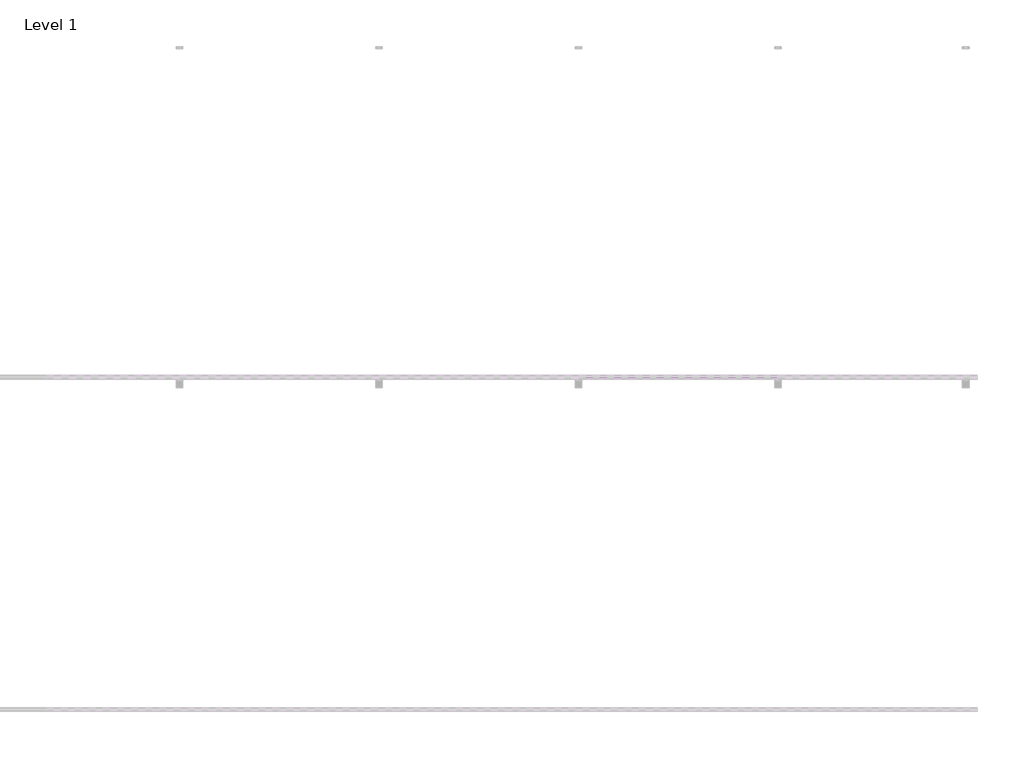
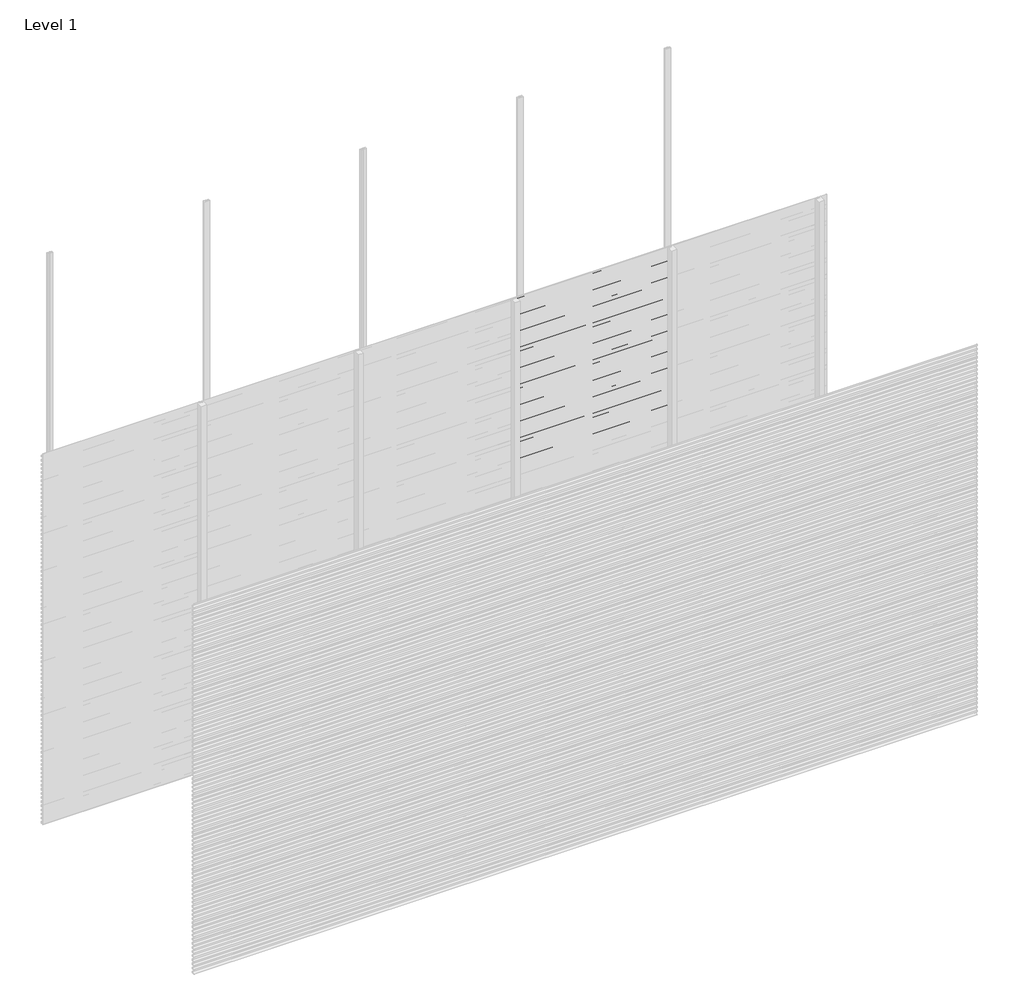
# One storey, part 38 of 77: 72 proxies.
"""IFC4 building model written with IfcOpenShell, lengths in millimetres."""

from ifc_helpers import new_model, si_unit, frame, origin, place, context, project, spatial, polyline, outline, extrude, element, save

model = new_model("IFC4")

# Units and contexts
model_context = context("Model", 3, world=origin())
ifc_project = project(units=[si_unit("LENGTHUNIT", "METRE", prefix="MILLI")], contexts=[model_context])

# Site, building, storey
site = spatial("IfcSite", under=ifc_project)
building = spatial("IfcBuilding", under=site)
storey = spatial("IfcBuildingStorey", under=building, Name="Level 1", Elevation=0.0)

# Proxies
placement = place(None, origin())
element("IfcBuildingElementProxy", 1, Name="Wall Sweeps", at=placement, inside=storey, context=model_context, shape_type="SweptSolid", body=[
    extrude(outline(polyline([(-29978.6, 1007.8359887), (-29998.0, 1019.0366691), (-29998.0, 1032.3), (-29997.0, 1032.3), (-29997.0, 1019.6191057), (-29977.6, 1008.4185105), (-29977.6, 994.8185105), (-29978.6, 996.3953129), (-29978.6, 1002.2032062), (-29995.9773817, 994.1), (-29996.4, 995.0063078), (-29978.6, 1003.3065841), (-29978.6, 1007.8359887)])), frame((2400.0, 0.0, 0.0), z_axis=(1.0, 0.0, 0.0), x_axis=(0.0, 1.0, 0.0)), (0.0, 0.0, 1.0), 1200.0),
])
element("IfcBuildingElementProxy", 2, Name="Wall Sweeps", at=placement, inside=storey, context=model_context, shape_type="SweptSolid", body=[
    extrude(outline(polyline([(-29978.6, 974.5359887), (-29998.0, 985.7366691), (-29998.0, 999.0), (-29997.0, 999.0), (-29997.0, 986.3191057), (-29977.6, 975.1185105), (-29977.6, 961.5185105), (-29978.6, 963.0953129), (-29978.6, 968.9032062), (-29995.9773817, 960.8), (-29996.4, 961.7063078), (-29978.6, 970.0065841), (-29978.6, 974.5359887)])), frame((2400.0, 0.0, 0.0), z_axis=(1.0, 0.0, 0.0), x_axis=(0.0, 1.0, 0.0)), (0.0, 0.0, 1.0), 1200.0),
])
element("IfcBuildingElementProxy", 3, Name="Wall Sweeps", at=placement, inside=storey, context=model_context, shape_type="SweptSolid", body=[
    extrude(outline(polyline([(-29978.6, 941.2359887), (-29998.0, 952.4366691), (-29998.0, 965.7), (-29997.0, 965.7), (-29997.0, 953.0191057), (-29977.6, 941.8185105), (-29977.6, 928.2185105), (-29978.6, 929.7953129), (-29978.6, 935.6032062), (-29995.9773817, 927.5), (-29996.4, 928.4063078), (-29978.6, 936.7065841), (-29978.6, 941.2359887)])), frame((2400.0, 0.0, 0.0), z_axis=(1.0, 0.0, 0.0), x_axis=(0.0, 1.0, 0.0)), (0.0, 0.0, 1.0), 1200.0),
])
element("IfcBuildingElementProxy", 4, Name="Wall Sweeps", at=placement, inside=storey, context=model_context, shape_type="SweptSolid", body=[
    extrude(outline(polyline([(-29978.6, 907.9359887), (-29998.0, 919.1366691), (-29998.0, 932.4), (-29997.0, 932.4), (-29997.0, 919.7191057), (-29977.6, 908.5185105), (-29977.6, 894.9185105), (-29978.6, 896.4953129), (-29978.6, 902.3032062), (-29995.9773817, 894.2), (-29996.4, 895.1063078), (-29978.6, 903.4065841), (-29978.6, 907.9359887)])), frame((2400.0, 0.0, 0.0), z_axis=(1.0, 0.0, 0.0), x_axis=(0.0, 1.0, 0.0)), (0.0, 0.0, 1.0), 1200.0),
])
element("IfcBuildingElementProxy", 5, Name="Wall Sweeps", at=placement, inside=storey, context=model_context, shape_type="SweptSolid", body=[
    extrude(outline(polyline([(-29978.6, 874.6359887), (-29998.0, 885.8366691), (-29998.0, 899.1), (-29997.0, 899.1), (-29997.0, 886.4191057), (-29977.6, 875.2185105), (-29977.6, 861.6185105), (-29978.6, 863.1953129), (-29978.6, 869.0032062), (-29995.9773817, 860.9), (-29996.4, 861.8063078), (-29978.6, 870.1065841), (-29978.6, 874.6359887)])), frame((2400.0, 0.0, 0.0), z_axis=(1.0, 0.0, 0.0), x_axis=(0.0, 1.0, 0.0)), (0.0, 0.0, 1.0), 1200.0),
])
element("IfcBuildingElementProxy", 6, Name="Wall Sweeps", at=placement, inside=storey, context=model_context, shape_type="SweptSolid", body=[
    extrude(outline(polyline([(-29978.6, 841.3359887), (-29998.0, 852.5366691), (-29998.0, 865.8), (-29997.0, 865.8), (-29997.0, 853.1191057), (-29977.6, 841.9185105), (-29977.6, 828.3185105), (-29978.6, 829.8953129), (-29978.6, 835.7032062), (-29995.9773817, 827.6), (-29996.4, 828.5063078), (-29978.6, 836.8065841), (-29978.6, 841.3359887)])), frame((2400.0, 0.0, 0.0), z_axis=(1.0, 0.0, 0.0), x_axis=(0.0, 1.0, 0.0)), (0.0, 0.0, 1.0), 1200.0),
])
element("IfcBuildingElementProxy", 7, Name="Wall Sweeps", at=placement, inside=storey, context=model_context, shape_type="SweptSolid", body=[
    extrude(outline(polyline([(-29978.6, 808.0359887), (-29998.0, 819.2366691), (-29998.0, 832.5), (-29997.0, 832.5), (-29997.0, 819.8191057), (-29977.6, 808.6185105), (-29977.6, 795.0185105), (-29978.6, 796.5953129), (-29978.6, 802.4032062), (-29995.9773817, 794.3), (-29996.4, 795.2063078), (-29978.6, 803.5065841), (-29978.6, 808.0359887)])), frame((2400.0, 0.0, 0.0), z_axis=(1.0, 0.0, 0.0), x_axis=(0.0, 1.0, 0.0)), (0.0, 0.0, 1.0), 1200.0),
])
element("IfcBuildingElementProxy", 8, Name="Wall Sweeps", at=placement, inside=storey, context=model_context, shape_type="SweptSolid", body=[
    extrude(outline(polyline([(-29978.6, 774.7359887), (-29998.0, 785.9366691), (-29998.0, 799.2), (-29997.0, 799.2), (-29997.0, 786.5191057), (-29977.6, 775.3185105), (-29977.6, 761.7185105), (-29978.6, 763.2953129), (-29978.6, 769.1032062), (-29995.9773817, 761.0), (-29996.4, 761.9063078), (-29978.6, 770.2065841), (-29978.6, 774.7359887)])), frame((2400.0, 0.0, 0.0), z_axis=(1.0, 0.0, 0.0), x_axis=(0.0, 1.0, 0.0)), (0.0, 0.0, 1.0), 1200.0),
])
element("IfcBuildingElementProxy", 9, Name="Wall Sweeps", at=placement, inside=storey, context=model_context, shape_type="SweptSolid", body=[
    extrude(outline(polyline([(-29978.6, 741.4359887), (-29998.0, 752.6366691), (-29998.0, 765.9), (-29997.0, 765.9), (-29997.0, 753.2191057), (-29977.6, 742.0185105), (-29977.6, 728.4185105), (-29978.6, 729.9953129), (-29978.6, 735.8032062), (-29995.9773817, 727.7), (-29996.4, 728.6063078), (-29978.6, 736.9065841), (-29978.6, 741.4359887)])), frame((2400.0, 0.0, 0.0), z_axis=(1.0, 0.0, 0.0), x_axis=(0.0, 1.0, 0.0)), (0.0, 0.0, 1.0), 1200.0),
])
element("IfcBuildingElementProxy", 10, Name="Wall Sweeps", at=placement, inside=storey, context=model_context, shape_type="SweptSolid", body=[
    extrude(outline(polyline([(-29978.6, 708.1359887), (-29998.0, 719.3366691), (-29998.0, 732.6), (-29997.0, 732.6), (-29997.0, 719.9191057), (-29977.6, 708.7185105), (-29977.6, 695.1185105), (-29978.6, 696.6953129), (-29978.6, 702.5032062), (-29995.9773817, 694.4), (-29996.4, 695.3063078), (-29978.6, 703.6065841), (-29978.6, 708.1359887)])), frame((2400.0, 0.0, 0.0), z_axis=(1.0, 0.0, 0.0), x_axis=(0.0, 1.0, 0.0)), (0.0, 0.0, 1.0), 1200.0),
])
element("IfcBuildingElementProxy", 11, Name="Wall Sweeps", at=placement, inside=storey, context=model_context, shape_type="SweptSolid", body=[
    extrude(outline(polyline([(-29978.6, 674.8359887), (-29998.0, 686.0366691), (-29998.0, 699.3), (-29997.0, 699.3), (-29997.0, 686.6191057), (-29977.6, 675.4185105), (-29977.6, 661.8185105), (-29978.6, 663.3953129), (-29978.6, 669.2032062), (-29995.9773817, 661.1), (-29996.4, 662.0063078), (-29978.6, 670.3065841), (-29978.6, 674.8359887)])), frame((2400.0, 0.0, 0.0), z_axis=(1.0, 0.0, 0.0), x_axis=(0.0, 1.0, 0.0)), (0.0, 0.0, 1.0), 1200.0),
])
element("IfcBuildingElementProxy", 12, Name="Wall Sweeps", at=placement, inside=storey, context=model_context, shape_type="SweptSolid", body=[
    extrude(outline(polyline([(-29978.6, 641.5359887), (-29998.0, 652.7366691), (-29998.0, 666.0), (-29997.0, 666.0), (-29997.0, 653.3191057), (-29977.6, 642.1185105), (-29977.6, 628.5185105), (-29978.6, 630.0953129), (-29978.6, 635.9032062), (-29995.9773817, 627.8), (-29996.4, 628.7063078), (-29978.6, 637.0065841), (-29978.6, 641.5359887)])), frame((2400.0, 0.0, 0.0), z_axis=(1.0, 0.0, 0.0), x_axis=(0.0, 1.0, 0.0)), (0.0, 0.0, 1.0), 1200.0),
])
element("IfcBuildingElementProxy", 13, Name="Wall Sweeps", at=placement, inside=storey, context=model_context, shape_type="SweptSolid", body=[
    extrude(outline(polyline([(-29978.6, 608.2359887), (-29998.0, 619.4366691), (-29998.0, 632.7), (-29997.0, 632.7), (-29997.0, 620.0191057), (-29977.6, 608.8185105), (-29977.6, 595.2185105), (-29978.6, 596.7953129), (-29978.6, 602.6032062), (-29995.9773817, 594.5), (-29996.4, 595.4063078), (-29978.6, 603.7065841), (-29978.6, 608.2359887)])), frame((2400.0, 0.0, 0.0), z_axis=(1.0, 0.0, 0.0), x_axis=(0.0, 1.0, 0.0)), (0.0, 0.0, 1.0), 1200.0),
])
element("IfcBuildingElementProxy", 14, Name="Wall Sweeps", at=placement, inside=storey, context=model_context, shape_type="SweptSolid", body=[
    extrude(outline(polyline([(-29978.6, 574.9359887), (-29998.0, 586.1366691), (-29998.0, 599.4), (-29997.0, 599.4), (-29997.0, 586.7191057), (-29977.6, 575.5185105), (-29977.6, 561.9185105), (-29978.6, 563.4953129), (-29978.6, 569.3032062), (-29995.9773817, 561.2), (-29996.4, 562.1063078), (-29978.6, 570.4065841), (-29978.6, 574.9359887)])), frame((2400.0, 0.0, 0.0), z_axis=(1.0, 0.0, 0.0), x_axis=(0.0, 1.0, 0.0)), (0.0, 0.0, 1.0), 1200.0),
])
element("IfcBuildingElementProxy", 15, Name="Wall Sweeps", at=placement, inside=storey, context=model_context, shape_type="SweptSolid", body=[
    extrude(outline(polyline([(-29978.6, 541.6359887), (-29998.0, 552.8366691), (-29998.0, 566.1), (-29997.0, 566.1), (-29997.0, 553.4191057), (-29977.6, 542.2185105), (-29977.6, 528.6185105), (-29978.6, 530.1953129), (-29978.6, 536.0032062), (-29995.9773817, 527.9), (-29996.4, 528.8063078), (-29978.6, 537.1065841), (-29978.6, 541.6359887)])), frame((2400.0, 0.0, 0.0), z_axis=(1.0, 0.0, 0.0), x_axis=(0.0, 1.0, 0.0)), (0.0, 0.0, 1.0), 1200.0),
])
element("IfcBuildingElementProxy", 16, Name="Wall Sweeps", at=placement, inside=storey, context=model_context, shape_type="SweptSolid", body=[
    extrude(outline(polyline([(-29978.6, 508.3359887), (-29998.0, 519.5366691), (-29998.0, 532.8), (-29997.0, 532.8), (-29997.0, 520.1191057), (-29977.6, 508.9185105), (-29977.6, 495.3185105), (-29978.6, 496.8953129), (-29978.6, 502.7032062), (-29995.9773817, 494.6), (-29996.4, 495.5063078), (-29978.6, 503.8065841), (-29978.6, 508.3359887)])), frame((2400.0, 0.0, 0.0), z_axis=(1.0, 0.0, 0.0), x_axis=(0.0, 1.0, 0.0)), (0.0, 0.0, 1.0), 1200.0),
])
element("IfcBuildingElementProxy", 17, Name="Wall Sweeps", at=placement, inside=storey, context=model_context, shape_type="SweptSolid", body=[
    extrude(outline(polyline([(-29978.6, 475.0359887), (-29998.0, 486.2366691), (-29998.0, 499.5), (-29997.0, 499.5), (-29997.0, 486.8191057), (-29977.6, 475.6185105), (-29977.6, 462.0185105), (-29978.6, 463.5953129), (-29978.6, 469.4032062), (-29995.9773817, 461.3), (-29996.4, 462.2063078), (-29978.6, 470.5065841), (-29978.6, 475.0359887)])), frame((2400.0, 0.0, 0.0), z_axis=(1.0, 0.0, 0.0), x_axis=(0.0, 1.0, 0.0)), (0.0, 0.0, 1.0), 1200.0),
])
element("IfcBuildingElementProxy", 18, Name="Wall Sweeps", at=placement, inside=storey, context=model_context, shape_type="SweptSolid", body=[
    extrude(outline(polyline([(-29978.6, 441.7359887), (-29998.0, 452.9366691), (-29998.0, 466.2), (-29997.0, 466.2), (-29997.0, 453.5191057), (-29977.6, 442.3185105), (-29977.6, 428.7185105), (-29978.6, 430.2953129), (-29978.6, 436.1032062), (-29995.9773817, 428.0), (-29996.4, 428.9063078), (-29978.6, 437.2065841), (-29978.6, 441.7359887)])), frame((2400.0, 0.0, 0.0), z_axis=(1.0, 0.0, 0.0), x_axis=(0.0, 1.0, 0.0)), (0.0, 0.0, 1.0), 1200.0),
])
element("IfcBuildingElementProxy", 19, Name="Wall Sweeps", at=placement, inside=storey, context=model_context, shape_type="SweptSolid", body=[
    extrude(outline(polyline([(-29978.6, 408.4359887), (-29998.0, 419.6366691), (-29998.0, 432.9), (-29997.0, 432.9), (-29997.0, 420.2191057), (-29977.6, 409.0185105), (-29977.6, 395.4185105), (-29978.6, 396.9953129), (-29978.6, 402.8032062), (-29995.9773817, 394.7), (-29996.4, 395.6063078), (-29978.6, 403.9065841), (-29978.6, 408.4359887)])), frame((2400.0, 0.0, 0.0), z_axis=(1.0, 0.0, 0.0), x_axis=(0.0, 1.0, 0.0)), (0.0, 0.0, 1.0), 1200.0),
])
element("IfcBuildingElementProxy", 20, Name="Wall Sweeps", at=placement, inside=storey, context=model_context, shape_type="SweptSolid", body=[
    extrude(outline(polyline([(-29978.6, 375.1359887), (-29998.0, 386.3366691), (-29998.0, 399.6), (-29997.0, 399.6), (-29997.0, 386.9191057), (-29977.6, 375.7185105), (-29977.6, 362.1185105), (-29978.6, 363.6953129), (-29978.6, 369.5032062), (-29995.9773817, 361.4), (-29996.4, 362.3063078), (-29978.6, 370.6065841), (-29978.6, 375.1359887)])), frame((2400.0, 0.0, 0.0), z_axis=(1.0, 0.0, 0.0), x_axis=(0.0, 1.0, 0.0)), (0.0, 0.0, 1.0), 1200.0),
])
element("IfcBuildingElementProxy", 21, Name="Wall Sweeps", at=placement, inside=storey, context=model_context, shape_type="SweptSolid", body=[
    extrude(outline(polyline([(-29978.6, 341.8359887), (-29998.0, 353.0366691), (-29998.0, 366.3), (-29997.0, 366.3), (-29997.0, 353.6191057), (-29977.6, 342.4185105), (-29977.6, 328.8185105), (-29978.6, 330.3953129), (-29978.6, 336.2032062), (-29995.9773817, 328.1), (-29996.4, 329.0063078), (-29978.6, 337.3065841), (-29978.6, 341.8359887)])), frame((2400.0, 0.0, 0.0), z_axis=(1.0, 0.0, 0.0), x_axis=(0.0, 1.0, 0.0)), (0.0, 0.0, 1.0), 1200.0),
])
element("IfcBuildingElementProxy", 22, Name="Wall Sweeps", at=placement, inside=storey, context=model_context, shape_type="SweptSolid", body=[
    extrude(outline(polyline([(-29978.6, 308.5359887), (-29998.0, 319.7366691), (-29998.0, 333.0), (-29997.0, 333.0), (-29997.0, 320.3191057), (-29977.6, 309.1185105), (-29977.6, 295.5185105), (-29978.6, 297.0953129), (-29978.6, 302.9032062), (-29995.9773817, 294.8), (-29996.4, 295.7063078), (-29978.6, 304.0065841), (-29978.6, 308.5359887)])), frame((2400.0, 0.0, 0.0), z_axis=(1.0, 0.0, 0.0), x_axis=(0.0, 1.0, 0.0)), (0.0, 0.0, 1.0), 1200.0),
])
element("IfcBuildingElementProxy", 23, Name="Wall Sweeps", at=placement, inside=storey, context=model_context, shape_type="SweptSolid", body=[
    extrude(outline(polyline([(-29978.6, 275.2359887), (-29998.0, 286.4366691), (-29998.0, 299.7), (-29997.0, 299.7), (-29997.0, 287.0191057), (-29977.6, 275.8185105), (-29977.6, 262.2185105), (-29978.6, 263.7953129), (-29978.6, 269.6032062), (-29995.9773817, 261.5), (-29996.4, 262.4063078), (-29978.6, 270.7065841), (-29978.6, 275.2359887)])), frame((2400.0, 0.0, 0.0), z_axis=(1.0, 0.0, 0.0), x_axis=(0.0, 1.0, 0.0)), (0.0, 0.0, 1.0), 1200.0),
])
element("IfcBuildingElementProxy", 24, Name="Wall Sweeps", at=placement, inside=storey, context=model_context, shape_type="SweptSolid", body=[
    extrude(outline(polyline([(-29978.6, 241.9359887), (-29998.0, 253.1366691), (-29998.0, 266.4), (-29997.0, 266.4), (-29997.0, 253.7191057), (-29977.6, 242.5185105), (-29977.6, 228.9185105), (-29978.6, 230.4953129), (-29978.6, 236.3032062), (-29995.9773817, 228.2), (-29996.4, 229.1063078), (-29978.6, 237.4065841), (-29978.6, 241.9359887)])), frame((2400.0, 0.0, 0.0), z_axis=(1.0, 0.0, 0.0), x_axis=(0.0, 1.0, 0.0)), (0.0, 0.0, 1.0), 1200.0),
])
element("IfcBuildingElementProxy", 25, Name="Wall Sweeps", at=placement, inside=storey, context=model_context, shape_type="SweptSolid", body=[
    extrude(outline(polyline([(-29978.6, 208.6359887), (-29998.0, 219.8366691), (-29998.0, 233.1), (-29997.0, 233.1), (-29997.0, 220.4191057), (-29977.6, 209.2185105), (-29977.6, 195.6185105), (-29978.6, 197.1953129), (-29978.6, 203.0032062), (-29995.9773817, 194.9), (-29996.4, 195.8063078), (-29978.6, 204.1065841), (-29978.6, 208.6359887)])), frame((2400.0, 0.0, 0.0), z_axis=(1.0, 0.0, 0.0), x_axis=(0.0, 1.0, 0.0)), (0.0, 0.0, 1.0), 1200.0),
])
element("IfcBuildingElementProxy", 26, Name="Wall Sweeps", at=placement, inside=storey, context=model_context, shape_type="SweptSolid", body=[
    extrude(outline(polyline([(-29978.6, 175.3359887), (-29998.0, 186.5366691), (-29998.0, 199.8), (-29997.0, 199.8), (-29997.0, 187.1191057), (-29977.6, 175.9185105), (-29977.6, 162.3185105), (-29978.6, 163.8953129), (-29978.6, 169.7032062), (-29995.9773817, 161.6), (-29996.4, 162.5063078), (-29978.6, 170.8065841), (-29978.6, 175.3359887)])), frame((2400.0, 0.0, 0.0), z_axis=(1.0, 0.0, 0.0), x_axis=(0.0, 1.0, 0.0)), (0.0, 0.0, 1.0), 1200.0),
])
element("IfcBuildingElementProxy", 27, Name="Wall Sweeps", at=placement, inside=storey, context=model_context, shape_type="SweptSolid", body=[
    extrude(outline(polyline([(-29978.6, 142.0359887), (-29998.0, 153.2366691), (-29998.0, 166.5), (-29997.0, 166.5), (-29997.0, 153.8191057), (-29977.6, 142.6185105), (-29977.6, 129.0185105), (-29978.6, 130.5953129), (-29978.6, 136.4032062), (-29995.9773817, 128.3), (-29996.4, 129.2063078), (-29978.6, 137.5065841), (-29978.6, 142.0359887)])), frame((2400.0, 0.0, 0.0), z_axis=(1.0, 0.0, 0.0), x_axis=(0.0, 1.0, 0.0)), (0.0, 0.0, 1.0), 1200.0),
])
element("IfcBuildingElementProxy", 28, Name="Wall Sweeps", at=placement, inside=storey, context=model_context, shape_type="SweptSolid", body=[
    extrude(outline(polyline([(-29978.6, 108.7359887), (-29998.0, 119.9366691), (-29998.0, 133.2), (-29997.0, 133.2), (-29997.0, 120.5191057), (-29977.6, 109.3185105), (-29977.6, 95.7185105), (-29978.6, 97.2953129), (-29978.6, 103.1032062), (-29995.9773817, 95.0), (-29996.4, 95.9063078), (-29978.6, 104.2065841), (-29978.6, 108.7359887)])), frame((2400.0, 0.0, 0.0), z_axis=(1.0, 0.0, 0.0), x_axis=(0.0, 1.0, 0.0)), (0.0, 0.0, 1.0), 1200.0),
])
element("IfcBuildingElementProxy", 29, Name="Wall Sweeps", at=placement, inside=storey, context=model_context, shape_type="SweptSolid", body=[
    extrude(outline(polyline([(-29978.6, 75.4359887), (-29998.0, 86.6366691), (-29998.0, 99.9), (-29997.0, 99.9), (-29997.0, 87.2191057), (-29977.6, 76.0185105), (-29977.6, 62.4185105), (-29978.6, 63.9953129), (-29978.6, 69.8032062), (-29995.9773817, 61.7), (-29996.4, 62.6063078), (-29978.6, 70.9065841), (-29978.6, 75.4359887)])), frame((2400.0, 0.0, 0.0), z_axis=(1.0, 0.0, 0.0), x_axis=(0.0, 1.0, 0.0)), (0.0, 0.0, 1.0), 1200.0),
])
element("IfcBuildingElementProxy", 30, Name="Wall Sweeps", at=placement, inside=storey, context=model_context, shape_type="SweptSolid", body=[
    extrude(outline(polyline([(-29978.6, 42.1359887), (-29998.0, 53.3366691), (-29998.0, 66.6), (-29997.0, 66.6), (-29997.0, 53.9191057), (-29977.6, 42.7185105), (-29977.6, 29.1185105), (-29978.6, 30.6953129), (-29978.6, 36.5032062), (-29995.9773817, 28.4), (-29996.4, 29.3063078), (-29978.6, 37.6065841), (-29978.6, 42.1359887)])), frame((2400.0, 0.0, 0.0), z_axis=(1.0, 0.0, 0.0), x_axis=(0.0, 1.0, 0.0)), (0.0, 0.0, 1.0), 1200.0),
])
element("IfcBuildingElementProxy", 31, Name="Wall Sweeps", at=placement, inside=storey, context=model_context, shape_type="SweptSolid", body=[
    extrude(outline(polyline([(-29978.6, 8.8359887), (-29998.0, 20.0366691), (-29998.0, 33.3), (-29997.0, 33.3), (-29997.0, 20.6191057), (-29977.6, 9.4185105), (-29977.6, -4.1814895), (-29978.6, -2.6046871), (-29978.6, 3.2032062), (-29995.9773817, -4.9), (-29996.4, -3.9936922), (-29978.6, 4.3065841), (-29978.6, 8.8359887)])), frame((2400.0, 0.0, 0.0), z_axis=(1.0, 0.0, 0.0), x_axis=(0.0, 1.0, 0.0)), (0.0, 0.0, 1.0), 1200.0),
])
element("IfcBuildingElementProxy", 32, Name="Wall Sweeps", at=placement, inside=storey, context=model_context, shape_type="SweptSolid", body=[
    extrude(outline(polyline([(-29978.6, 2972.5359887), (-29998.0, 2983.7366691), (-29998.0, 2997.0), (-29997.0, 2997.0), (-29997.0, 2984.3191057), (-29977.6, 2973.1185105), (-29977.6, 2959.5185105), (-29978.6, 2961.0953129), (-29978.6, 2966.9032062), (-29995.9773817, 2958.8), (-29996.4, 2959.7063078), (-29978.6, 2968.0065841), (-29978.6, 2972.5359887)])), frame((3600.0, 0.0, 0.0), z_axis=(1.0, 0.0, 0.0), x_axis=(0.0, 1.0, 0.0)), (0.0, 0.0, 1.0), 1200.0),
])
element("IfcBuildingElementProxy", 33, Name="Wall Sweeps", at=placement, inside=storey, context=model_context, shape_type="SweptSolid", body=[
    extrude(outline(polyline([(-29978.6, 2939.2359887), (-29998.0, 2950.4366691), (-29998.0, 2963.7), (-29997.0, 2963.7), (-29997.0, 2951.0191057), (-29977.6, 2939.8185105), (-29977.6, 2926.2185105), (-29978.6, 2927.7953129), (-29978.6, 2933.6032062), (-29995.9773817, 2925.5), (-29996.4, 2926.4063078), (-29978.6, 2934.7065841), (-29978.6, 2939.2359887)])), frame((3600.0, 0.0, 0.0), z_axis=(1.0, 0.0, 0.0), x_axis=(0.0, 1.0, 0.0)), (0.0, 0.0, 1.0), 1200.0),
])
element("IfcBuildingElementProxy", 34, Name="Wall Sweeps", at=placement, inside=storey, context=model_context, shape_type="SweptSolid", body=[
    extrude(outline(polyline([(-29978.6, 2905.9359887), (-29998.0, 2917.1366691), (-29998.0, 2930.4), (-29997.0, 2930.4), (-29997.0, 2917.7191057), (-29977.6, 2906.5185105), (-29977.6, 2892.9185105), (-29978.6, 2894.4953129), (-29978.6, 2900.3032062), (-29995.9773817, 2892.2), (-29996.4, 2893.1063078), (-29978.6, 2901.4065841), (-29978.6, 2905.9359887)])), frame((3600.0, 0.0, 0.0), z_axis=(1.0, 0.0, 0.0), x_axis=(0.0, 1.0, 0.0)), (0.0, 0.0, 1.0), 1200.0),
])
element("IfcBuildingElementProxy", 35, Name="Wall Sweeps", at=placement, inside=storey, context=model_context, shape_type="SweptSolid", body=[
    extrude(outline(polyline([(-29978.6, 2872.6359887), (-29998.0, 2883.8366691), (-29998.0, 2897.1), (-29997.0, 2897.1), (-29997.0, 2884.4191057), (-29977.6, 2873.2185105), (-29977.6, 2859.6185105), (-29978.6, 2861.1953129), (-29978.6, 2867.0032062), (-29995.9773817, 2858.9), (-29996.4, 2859.8063078), (-29978.6, 2868.1065841), (-29978.6, 2872.6359887)])), frame((3600.0, 0.0, 0.0), z_axis=(1.0, 0.0, 0.0), x_axis=(0.0, 1.0, 0.0)), (0.0, 0.0, 1.0), 1200.0),
])
element("IfcBuildingElementProxy", 36, Name="Wall Sweeps", at=placement, inside=storey, context=model_context, shape_type="SweptSolid", body=[
    extrude(outline(polyline([(-29978.6, 2839.3359887), (-29998.0, 2850.5366691), (-29998.0, 2863.8), (-29997.0, 2863.8), (-29997.0, 2851.1191057), (-29977.6, 2839.9185105), (-29977.6, 2826.3185105), (-29978.6, 2827.8953129), (-29978.6, 2833.7032062), (-29995.9773817, 2825.6), (-29996.4, 2826.5063078), (-29978.6, 2834.8065841), (-29978.6, 2839.3359887)])), frame((3600.0, 0.0, 0.0), z_axis=(1.0, 0.0, 0.0), x_axis=(0.0, 1.0, 0.0)), (0.0, 0.0, 1.0), 1200.0),
])
element("IfcBuildingElementProxy", 37, Name="Wall Sweeps", at=placement, inside=storey, context=model_context, shape_type="SweptSolid", body=[
    extrude(outline(polyline([(-29978.6, 2806.0359887), (-29998.0, 2817.2366691), (-29998.0, 2830.5), (-29997.0, 2830.5), (-29997.0, 2817.8191057), (-29977.6, 2806.6185105), (-29977.6, 2793.0185105), (-29978.6, 2794.5953129), (-29978.6, 2800.4032062), (-29995.9773817, 2792.3), (-29996.4, 2793.2063078), (-29978.6, 2801.5065841), (-29978.6, 2806.0359887)])), frame((3600.0, 0.0, 0.0), z_axis=(1.0, 0.0, 0.0), x_axis=(0.0, 1.0, 0.0)), (0.0, 0.0, 1.0), 1200.0),
])
element("IfcBuildingElementProxy", 38, Name="Wall Sweeps", at=placement, inside=storey, context=model_context, shape_type="SweptSolid", body=[
    extrude(outline(polyline([(-29978.6, 2772.7359887), (-29998.0, 2783.9366691), (-29998.0, 2797.2), (-29997.0, 2797.2), (-29997.0, 2784.5191057), (-29977.6, 2773.3185105), (-29977.6, 2759.7185105), (-29978.6, 2761.2953129), (-29978.6, 2767.1032062), (-29995.9773817, 2759.0), (-29996.4, 2759.9063078), (-29978.6, 2768.2065841), (-29978.6, 2772.7359887)])), frame((3600.0, 0.0, 0.0), z_axis=(1.0, 0.0, 0.0), x_axis=(0.0, 1.0, 0.0)), (0.0, 0.0, 1.0), 1200.0),
])
element("IfcBuildingElementProxy", 39, Name="Wall Sweeps", at=placement, inside=storey, context=model_context, shape_type="SweptSolid", body=[
    extrude(outline(polyline([(-29978.6, 2739.4359887), (-29998.0, 2750.6366691), (-29998.0, 2763.9), (-29997.0, 2763.9), (-29997.0, 2751.2191057), (-29977.6, 2740.0185105), (-29977.6, 2726.4185105), (-29978.6, 2727.9953129), (-29978.6, 2733.8032062), (-29995.9773817, 2725.7), (-29996.4, 2726.6063078), (-29978.6, 2734.9065841), (-29978.6, 2739.4359887)])), frame((3600.0, 0.0, 0.0), z_axis=(1.0, 0.0, 0.0), x_axis=(0.0, 1.0, 0.0)), (0.0, 0.0, 1.0), 1200.0),
])
element("IfcBuildingElementProxy", 40, Name="Wall Sweeps", at=placement, inside=storey, context=model_context, shape_type="SweptSolid", body=[
    extrude(outline(polyline([(-29978.6, 2706.1359887), (-29998.0, 2717.3366691), (-29998.0, 2730.6), (-29997.0, 2730.6), (-29997.0, 2717.9191057), (-29977.6, 2706.7185105), (-29977.6, 2693.1185105), (-29978.6, 2694.6953129), (-29978.6, 2700.5032062), (-29995.9773817, 2692.4), (-29996.4, 2693.3063078), (-29978.6, 2701.6065841), (-29978.6, 2706.1359887)])), frame((3600.0, 0.0, 0.0), z_axis=(1.0, 0.0, 0.0), x_axis=(0.0, 1.0, 0.0)), (0.0, 0.0, 1.0), 1200.0),
])
element("IfcBuildingElementProxy", 41, Name="Wall Sweeps", at=placement, inside=storey, context=model_context, shape_type="SweptSolid", body=[
    extrude(outline(polyline([(-29978.6, 2672.8359887), (-29998.0, 2684.0366691), (-29998.0, 2697.3), (-29997.0, 2697.3), (-29997.0, 2684.6191057), (-29977.6, 2673.4185105), (-29977.6, 2659.8185105), (-29978.6, 2661.3953129), (-29978.6, 2667.2032062), (-29995.9773817, 2659.1), (-29996.4, 2660.0063078), (-29978.6, 2668.3065841), (-29978.6, 2672.8359887)])), frame((3600.0, 0.0, 0.0), z_axis=(1.0, 0.0, 0.0), x_axis=(0.0, 1.0, 0.0)), (0.0, 0.0, 1.0), 1200.0),
])
element("IfcBuildingElementProxy", 42, Name="Wall Sweeps", at=placement, inside=storey, context=model_context, shape_type="SweptSolid", body=[
    extrude(outline(polyline([(-29978.6, 2639.5359887), (-29998.0, 2650.7366691), (-29998.0, 2664.0), (-29997.0, 2664.0), (-29997.0, 2651.3191057), (-29977.6, 2640.1185105), (-29977.6, 2626.5185105), (-29978.6, 2628.0953129), (-29978.6, 2633.9032062), (-29995.9773817, 2625.8), (-29996.4, 2626.7063078), (-29978.6, 2635.0065841), (-29978.6, 2639.5359887)])), frame((3600.0, 0.0, 0.0), z_axis=(1.0, 0.0, 0.0), x_axis=(0.0, 1.0, 0.0)), (0.0, 0.0, 1.0), 1200.0),
])
element("IfcBuildingElementProxy", 43, Name="Wall Sweeps", at=placement, inside=storey, context=model_context, shape_type="SweptSolid", body=[
    extrude(outline(polyline([(-29978.6, 2606.2359887), (-29998.0, 2617.4366691), (-29998.0, 2630.7), (-29997.0, 2630.7), (-29997.0, 2618.0191057), (-29977.6, 2606.8185105), (-29977.6, 2593.2185105), (-29978.6, 2594.7953129), (-29978.6, 2600.6032062), (-29995.9773817, 2592.5), (-29996.4, 2593.4063078), (-29978.6, 2601.7065841), (-29978.6, 2606.2359887)])), frame((3600.0, 0.0, 0.0), z_axis=(1.0, 0.0, 0.0), x_axis=(0.0, 1.0, 0.0)), (0.0, 0.0, 1.0), 1200.0),
])
element("IfcBuildingElementProxy", 44, Name="Wall Sweeps", at=placement, inside=storey, context=model_context, shape_type="SweptSolid", body=[
    extrude(outline(polyline([(-29978.6, 2572.9359887), (-29998.0, 2584.1366691), (-29998.0, 2597.4), (-29997.0, 2597.4), (-29997.0, 2584.7191057), (-29977.6, 2573.5185105), (-29977.6, 2559.9185105), (-29978.6, 2561.4953129), (-29978.6, 2567.3032062), (-29995.9773817, 2559.2), (-29996.4, 2560.1063078), (-29978.6, 2568.4065841), (-29978.6, 2572.9359887)])), frame((3600.0, 0.0, 0.0), z_axis=(1.0, 0.0, 0.0), x_axis=(0.0, 1.0, 0.0)), (0.0, 0.0, 1.0), 1200.0),
])
element("IfcBuildingElementProxy", 45, Name="Wall Sweeps", at=placement, inside=storey, context=model_context, shape_type="SweptSolid", body=[
    extrude(outline(polyline([(-29978.6, 2539.6359887), (-29998.0, 2550.8366691), (-29998.0, 2564.1), (-29997.0, 2564.1), (-29997.0, 2551.4191057), (-29977.6, 2540.2185105), (-29977.6, 2526.6185105), (-29978.6, 2528.1953129), (-29978.6, 2534.0032062), (-29995.9773817, 2525.9), (-29996.4, 2526.8063078), (-29978.6, 2535.1065841), (-29978.6, 2539.6359887)])), frame((3600.0, 0.0, 0.0), z_axis=(1.0, 0.0, 0.0), x_axis=(0.0, 1.0, 0.0)), (0.0, 0.0, 1.0), 1200.0),
])
element("IfcBuildingElementProxy", 46, Name="Wall Sweeps", at=placement, inside=storey, context=model_context, shape_type="SweptSolid", body=[
    extrude(outline(polyline([(-29978.6, 2506.3359887), (-29998.0, 2517.5366691), (-29998.0, 2530.8), (-29997.0, 2530.8), (-29997.0, 2518.1191057), (-29977.6, 2506.9185105), (-29977.6, 2493.3185105), (-29978.6, 2494.8953129), (-29978.6, 2500.7032062), (-29995.9773817, 2492.6), (-29996.4, 2493.5063078), (-29978.6, 2501.8065841), (-29978.6, 2506.3359887)])), frame((3600.0, 0.0, 0.0), z_axis=(1.0, 0.0, 0.0), x_axis=(0.0, 1.0, 0.0)), (0.0, 0.0, 1.0), 1200.0),
])
element("IfcBuildingElementProxy", 47, Name="Wall Sweeps", at=placement, inside=storey, context=model_context, shape_type="SweptSolid", body=[
    extrude(outline(polyline([(-29978.6, 2473.0359887), (-29998.0, 2484.2366691), (-29998.0, 2497.5), (-29997.0, 2497.5), (-29997.0, 2484.8191057), (-29977.6, 2473.6185105), (-29977.6, 2460.0185105), (-29978.6, 2461.5953129), (-29978.6, 2467.4032062), (-29995.9773817, 2459.3), (-29996.4, 2460.2063078), (-29978.6, 2468.5065841), (-29978.6, 2473.0359887)])), frame((3600.0, 0.0, 0.0), z_axis=(1.0, 0.0, 0.0), x_axis=(0.0, 1.0, 0.0)), (0.0, 0.0, 1.0), 1200.0),
])
element("IfcBuildingElementProxy", 48, Name="Wall Sweeps", at=placement, inside=storey, context=model_context, shape_type="SweptSolid", body=[
    extrude(outline(polyline([(-29978.6, 2439.7359887), (-29998.0, 2450.9366691), (-29998.0, 2464.2), (-29997.0, 2464.2), (-29997.0, 2451.5191057), (-29977.6, 2440.3185105), (-29977.6, 2426.7185105), (-29978.6, 2428.2953129), (-29978.6, 2434.1032062), (-29995.9773817, 2426.0), (-29996.4, 2426.9063078), (-29978.6, 2435.2065841), (-29978.6, 2439.7359887)])), frame((3600.0, 0.0, 0.0), z_axis=(1.0, 0.0, 0.0), x_axis=(0.0, 1.0, 0.0)), (0.0, 0.0, 1.0), 1200.0),
])
element("IfcBuildingElementProxy", 49, Name="Wall Sweeps", at=placement, inside=storey, context=model_context, shape_type="SweptSolid", body=[
    extrude(outline(polyline([(-29978.6, 2406.4359887), (-29998.0, 2417.6366691), (-29998.0, 2430.9), (-29997.0, 2430.9), (-29997.0, 2418.2191057), (-29977.6, 2407.0185105), (-29977.6, 2393.4185105), (-29978.6, 2394.9953129), (-29978.6, 2400.8032062), (-29995.9773817, 2392.7), (-29996.4, 2393.6063078), (-29978.6, 2401.9065841), (-29978.6, 2406.4359887)])), frame((3600.0, 0.0, 0.0), z_axis=(1.0, 0.0, 0.0), x_axis=(0.0, 1.0, 0.0)), (0.0, 0.0, 1.0), 1200.0),
])
element("IfcBuildingElementProxy", 50, Name="Wall Sweeps", at=placement, inside=storey, context=model_context, shape_type="SweptSolid", body=[
    extrude(outline(polyline([(-29978.6, 2373.1359887), (-29998.0, 2384.3366691), (-29998.0, 2397.6), (-29997.0, 2397.6), (-29997.0, 2384.9191057), (-29977.6, 2373.7185105), (-29977.6, 2360.1185105), (-29978.6, 2361.6953129), (-29978.6, 2367.5032062), (-29995.9773817, 2359.4), (-29996.4, 2360.3063078), (-29978.6, 2368.6065841), (-29978.6, 2373.1359887)])), frame((3600.0, 0.0, 0.0), z_axis=(1.0, 0.0, 0.0), x_axis=(0.0, 1.0, 0.0)), (0.0, 0.0, 1.0), 1200.0),
])
element("IfcBuildingElementProxy", 51, Name="Wall Sweeps", at=placement, inside=storey, context=model_context, shape_type="SweptSolid", body=[
    extrude(outline(polyline([(-29978.6, 2339.8359887), (-29998.0, 2351.0366691), (-29998.0, 2364.3), (-29997.0, 2364.3), (-29997.0, 2351.6191057), (-29977.6, 2340.4185105), (-29977.6, 2326.8185105), (-29978.6, 2328.3953129), (-29978.6, 2334.2032062), (-29995.9773817, 2326.1), (-29996.4, 2327.0063078), (-29978.6, 2335.3065841), (-29978.6, 2339.8359887)])), frame((3600.0, 0.0, 0.0), z_axis=(1.0, 0.0, 0.0), x_axis=(0.0, 1.0, 0.0)), (0.0, 0.0, 1.0), 1200.0),
])
element("IfcBuildingElementProxy", 52, Name="Wall Sweeps", at=placement, inside=storey, context=model_context, shape_type="SweptSolid", body=[
    extrude(outline(polyline([(-29978.6, 2306.5359887), (-29998.0, 2317.7366691), (-29998.0, 2331.0), (-29997.0, 2331.0), (-29997.0, 2318.3191057), (-29977.6, 2307.1185105), (-29977.6, 2293.5185105), (-29978.6, 2295.0953129), (-29978.6, 2300.9032062), (-29995.9773817, 2292.8), (-29996.4, 2293.7063078), (-29978.6, 2302.0065841), (-29978.6, 2306.5359887)])), frame((3600.0, 0.0, 0.0), z_axis=(1.0, 0.0, 0.0), x_axis=(0.0, 1.0, 0.0)), (0.0, 0.0, 1.0), 1200.0),
])
element("IfcBuildingElementProxy", 53, Name="Wall Sweeps", at=placement, inside=storey, context=model_context, shape_type="SweptSolid", body=[
    extrude(outline(polyline([(-29978.6, 2273.2359887), (-29998.0, 2284.4366691), (-29998.0, 2297.7), (-29997.0, 2297.7), (-29997.0, 2285.0191057), (-29977.6, 2273.8185105), (-29977.6, 2260.2185105), (-29978.6, 2261.7953129), (-29978.6, 2267.6032062), (-29995.9773817, 2259.5), (-29996.4, 2260.4063078), (-29978.6, 2268.7065841), (-29978.6, 2273.2359887)])), frame((3600.0, 0.0, 0.0), z_axis=(1.0, 0.0, 0.0), x_axis=(0.0, 1.0, 0.0)), (0.0, 0.0, 1.0), 1200.0),
])
element("IfcBuildingElementProxy", 54, Name="Wall Sweeps", at=placement, inside=storey, context=model_context, shape_type="SweptSolid", body=[
    extrude(outline(polyline([(-29978.6, 2239.9359887), (-29998.0, 2251.1366691), (-29998.0, 2264.4), (-29997.0, 2264.4), (-29997.0, 2251.7191057), (-29977.6, 2240.5185105), (-29977.6, 2226.9185105), (-29978.6, 2228.4953129), (-29978.6, 2234.3032062), (-29995.9773817, 2226.2), (-29996.4, 2227.1063078), (-29978.6, 2235.4065841), (-29978.6, 2239.9359887)])), frame((3600.0, 0.0, 0.0), z_axis=(1.0, 0.0, 0.0), x_axis=(0.0, 1.0, 0.0)), (0.0, 0.0, 1.0), 1200.0),
])
element("IfcBuildingElementProxy", 55, Name="Wall Sweeps", at=placement, inside=storey, context=model_context, shape_type="SweptSolid", body=[
    extrude(outline(polyline([(-29978.6, 2206.6359887), (-29998.0, 2217.8366691), (-29998.0, 2231.1), (-29997.0, 2231.1), (-29997.0, 2218.4191057), (-29977.6, 2207.2185105), (-29977.6, 2193.6185105), (-29978.6, 2195.1953129), (-29978.6, 2201.0032062), (-29995.9773817, 2192.9), (-29996.4, 2193.8063078), (-29978.6, 2202.1065841), (-29978.6, 2206.6359887)])), frame((3600.0, 0.0, 0.0), z_axis=(1.0, 0.0, 0.0), x_axis=(0.0, 1.0, 0.0)), (0.0, 0.0, 1.0), 1200.0),
])
element("IfcBuildingElementProxy", 56, Name="Wall Sweeps", at=placement, inside=storey, context=model_context, shape_type="SweptSolid", body=[
    extrude(outline(polyline([(-29978.6, 2173.3359887), (-29998.0, 2184.5366691), (-29998.0, 2197.8), (-29997.0, 2197.8), (-29997.0, 2185.1191057), (-29977.6, 2173.9185105), (-29977.6, 2160.3185105), (-29978.6, 2161.8953129), (-29978.6, 2167.7032062), (-29995.9773817, 2159.6), (-29996.4, 2160.5063078), (-29978.6, 2168.8065841), (-29978.6, 2173.3359887)])), frame((3600.0, 0.0, 0.0), z_axis=(1.0, 0.0, 0.0), x_axis=(0.0, 1.0, 0.0)), (0.0, 0.0, 1.0), 1200.0),
])
element("IfcBuildingElementProxy", 57, Name="Wall Sweeps", at=placement, inside=storey, context=model_context, shape_type="SweptSolid", body=[
    extrude(outline(polyline([(-29978.6, 2140.0359887), (-29998.0, 2151.2366691), (-29998.0, 2164.5), (-29997.0, 2164.5), (-29997.0, 2151.8191057), (-29977.6, 2140.6185105), (-29977.6, 2127.0185105), (-29978.6, 2128.5953129), (-29978.6, 2134.4032062), (-29995.9773817, 2126.3), (-29996.4, 2127.2063078), (-29978.6, 2135.5065841), (-29978.6, 2140.0359887)])), frame((3600.0, 0.0, 0.0), z_axis=(1.0, 0.0, 0.0), x_axis=(0.0, 1.0, 0.0)), (0.0, 0.0, 1.0), 1200.0),
])
element("IfcBuildingElementProxy", 58, Name="Wall Sweeps", at=placement, inside=storey, context=model_context, shape_type="SweptSolid", body=[
    extrude(outline(polyline([(-29978.6, 2106.7359887), (-29998.0, 2117.9366691), (-29998.0, 2131.2), (-29997.0, 2131.2), (-29997.0, 2118.5191057), (-29977.6, 2107.3185105), (-29977.6, 2093.7185105), (-29978.6, 2095.2953129), (-29978.6, 2101.1032062), (-29995.9773817, 2093.0), (-29996.4, 2093.9063078), (-29978.6, 2102.2065841), (-29978.6, 2106.7359887)])), frame((3600.0, 0.0, 0.0), z_axis=(1.0, 0.0, 0.0), x_axis=(0.0, 1.0, 0.0)), (0.0, 0.0, 1.0), 1200.0),
])
element("IfcBuildingElementProxy", 59, Name="Wall Sweeps", at=placement, inside=storey, context=model_context, shape_type="SweptSolid", body=[
    extrude(outline(polyline([(-29978.6, 2073.4359887), (-29998.0, 2084.6366691), (-29998.0, 2097.9), (-29997.0, 2097.9), (-29997.0, 2085.2191057), (-29977.6, 2074.0185105), (-29977.6, 2060.4185105), (-29978.6, 2061.9953129), (-29978.6, 2067.8032062), (-29995.9773817, 2059.7), (-29996.4, 2060.6063078), (-29978.6, 2068.9065841), (-29978.6, 2073.4359887)])), frame((3600.0, 0.0, 0.0), z_axis=(1.0, 0.0, 0.0), x_axis=(0.0, 1.0, 0.0)), (0.0, 0.0, 1.0), 1200.0),
])
element("IfcBuildingElementProxy", 60, Name="Wall Sweeps", at=placement, inside=storey, context=model_context, shape_type="SweptSolid", body=[
    extrude(outline(polyline([(-29978.6, 2040.1359887), (-29998.0, 2051.3366691), (-29998.0, 2064.6), (-29997.0, 2064.6), (-29997.0, 2051.9191057), (-29977.6, 2040.7185105), (-29977.6, 2027.1185105), (-29978.6, 2028.6953129), (-29978.6, 2034.5032062), (-29995.9773817, 2026.4), (-29996.4, 2027.3063078), (-29978.6, 2035.6065841), (-29978.6, 2040.1359887)])), frame((3600.0, 0.0, 0.0), z_axis=(1.0, 0.0, 0.0), x_axis=(0.0, 1.0, 0.0)), (0.0, 0.0, 1.0), 1200.0),
])
element("IfcBuildingElementProxy", 61, Name="Wall Sweeps", at=placement, inside=storey, context=model_context, shape_type="SweptSolid", body=[
    extrude(outline(polyline([(-29978.6, 2006.8359887), (-29998.0, 2018.0366691), (-29998.0, 2031.3), (-29997.0, 2031.3), (-29997.0, 2018.6191057), (-29977.6, 2007.4185105), (-29977.6, 1993.8185105), (-29978.6, 1995.3953129), (-29978.6, 2001.2032062), (-29995.9773817, 1993.1), (-29996.4, 1994.0063078), (-29978.6, 2002.3065841), (-29978.6, 2006.8359887)])), frame((3600.0, 0.0, 0.0), z_axis=(1.0, 0.0, 0.0), x_axis=(0.0, 1.0, 0.0)), (0.0, 0.0, 1.0), 1200.0),
])
element("IfcBuildingElementProxy", 62, Name="Wall Sweeps", at=placement, inside=storey, context=model_context, shape_type="SweptSolid", body=[
    extrude(outline(polyline([(-29978.6, 1973.5359887), (-29998.0, 1984.7366691), (-29998.0, 1998.0), (-29997.0, 1998.0), (-29997.0, 1985.3191057), (-29977.6, 1974.1185105), (-29977.6, 1960.5185105), (-29978.6, 1962.0953129), (-29978.6, 1967.9032062), (-29995.9773817, 1959.8), (-29996.4, 1960.7063078), (-29978.6, 1969.0065841), (-29978.6, 1973.5359887)])), frame((3600.0, 0.0, 0.0), z_axis=(1.0, 0.0, 0.0), x_axis=(0.0, 1.0, 0.0)), (0.0, 0.0, 1.0), 1200.0),
])
element("IfcBuildingElementProxy", 63, Name="Wall Sweeps", at=placement, inside=storey, context=model_context, shape_type="SweptSolid", body=[
    extrude(outline(polyline([(-29978.6, 1940.2359887), (-29998.0, 1951.4366691), (-29998.0, 1964.7), (-29997.0, 1964.7), (-29997.0, 1952.0191057), (-29977.6, 1940.8185105), (-29977.6, 1927.2185105), (-29978.6, 1928.7953129), (-29978.6, 1934.6032062), (-29995.9773817, 1926.5), (-29996.4, 1927.4063078), (-29978.6, 1935.7065841), (-29978.6, 1940.2359887)])), frame((3600.0, 0.0, 0.0), z_axis=(1.0, 0.0, 0.0), x_axis=(0.0, 1.0, 0.0)), (0.0, 0.0, 1.0), 1200.0),
])
element("IfcBuildingElementProxy", 64, Name="Wall Sweeps", at=placement, inside=storey, context=model_context, shape_type="SweptSolid", body=[
    extrude(outline(polyline([(-29978.6, 1906.9359887), (-29998.0, 1918.1366691), (-29998.0, 1931.4), (-29997.0, 1931.4), (-29997.0, 1918.7191057), (-29977.6, 1907.5185105), (-29977.6, 1893.9185105), (-29978.6, 1895.4953129), (-29978.6, 1901.3032062), (-29995.9773817, 1893.2), (-29996.4, 1894.1063078), (-29978.6, 1902.4065841), (-29978.6, 1906.9359887)])), frame((3600.0, 0.0, 0.0), z_axis=(1.0, 0.0, 0.0), x_axis=(0.0, 1.0, 0.0)), (0.0, 0.0, 1.0), 1200.0),
])
element("IfcBuildingElementProxy", 65, Name="Wall Sweeps", at=placement, inside=storey, context=model_context, shape_type="SweptSolid", body=[
    extrude(outline(polyline([(-29978.6, 1873.6359887), (-29998.0, 1884.8366691), (-29998.0, 1898.1), (-29997.0, 1898.1), (-29997.0, 1885.4191057), (-29977.6, 1874.2185105), (-29977.6, 1860.6185105), (-29978.6, 1862.1953129), (-29978.6, 1868.0032062), (-29995.9773817, 1859.9), (-29996.4, 1860.8063078), (-29978.6, 1869.1065841), (-29978.6, 1873.6359887)])), frame((3600.0, 0.0, 0.0), z_axis=(1.0, 0.0, 0.0), x_axis=(0.0, 1.0, 0.0)), (0.0, 0.0, 1.0), 1200.0),
])
element("IfcBuildingElementProxy", 66, Name="Wall Sweeps", at=placement, inside=storey, context=model_context, shape_type="SweptSolid", body=[
    extrude(outline(polyline([(-29978.6, 1840.3359887), (-29998.0, 1851.5366691), (-29998.0, 1864.8), (-29997.0, 1864.8), (-29997.0, 1852.1191057), (-29977.6, 1840.9185105), (-29977.6, 1827.3185105), (-29978.6, 1828.8953129), (-29978.6, 1834.7032062), (-29995.9773817, 1826.6), (-29996.4, 1827.5063078), (-29978.6, 1835.8065841), (-29978.6, 1840.3359887)])), frame((3600.0, 0.0, 0.0), z_axis=(1.0, 0.0, 0.0), x_axis=(0.0, 1.0, 0.0)), (0.0, 0.0, 1.0), 1200.0),
])
element("IfcBuildingElementProxy", 67, Name="Wall Sweeps", at=placement, inside=storey, context=model_context, shape_type="SweptSolid", body=[
    extrude(outline(polyline([(-29978.6, 1807.0359887), (-29998.0, 1818.2366691), (-29998.0, 1831.5), (-29997.0, 1831.5), (-29997.0, 1818.8191057), (-29977.6, 1807.6185105), (-29977.6, 1794.0185105), (-29978.6, 1795.5953129), (-29978.6, 1801.4032062), (-29995.9773817, 1793.3), (-29996.4, 1794.2063078), (-29978.6, 1802.5065841), (-29978.6, 1807.0359887)])), frame((3600.0, 0.0, 0.0), z_axis=(1.0, 0.0, 0.0), x_axis=(0.0, 1.0, 0.0)), (0.0, 0.0, 1.0), 1200.0),
])
element("IfcBuildingElementProxy", 68, Name="Wall Sweeps", at=placement, inside=storey, context=model_context, shape_type="SweptSolid", body=[
    extrude(outline(polyline([(-29978.6, 1773.7359887), (-29998.0, 1784.9366691), (-29998.0, 1798.2), (-29997.0, 1798.2), (-29997.0, 1785.5191057), (-29977.6, 1774.3185105), (-29977.6, 1760.7185105), (-29978.6, 1762.2953129), (-29978.6, 1768.1032062), (-29995.9773817, 1760.0), (-29996.4, 1760.9063078), (-29978.6, 1769.2065841), (-29978.6, 1773.7359887)])), frame((3600.0, 0.0, 0.0), z_axis=(1.0, 0.0, 0.0), x_axis=(0.0, 1.0, 0.0)), (0.0, 0.0, 1.0), 1200.0),
])
element("IfcBuildingElementProxy", 69, Name="Wall Sweeps", at=placement, inside=storey, context=model_context, shape_type="SweptSolid", body=[
    extrude(outline(polyline([(-29978.6, 1740.4359887), (-29998.0, 1751.6366691), (-29998.0, 1764.9), (-29997.0, 1764.9), (-29997.0, 1752.2191057), (-29977.6, 1741.0185105), (-29977.6, 1727.4185105), (-29978.6, 1728.9953129), (-29978.6, 1734.8032062), (-29995.9773817, 1726.7), (-29996.4, 1727.6063078), (-29978.6, 1735.9065841), (-29978.6, 1740.4359887)])), frame((3600.0, 0.0, 0.0), z_axis=(1.0, 0.0, 0.0), x_axis=(0.0, 1.0, 0.0)), (0.0, 0.0, 1.0), 1200.0),
])
element("IfcBuildingElementProxy", 70, Name="Wall Sweeps", at=placement, inside=storey, context=model_context, shape_type="SweptSolid", body=[
    extrude(outline(polyline([(-29978.6, 1707.1359887), (-29998.0, 1718.3366691), (-29998.0, 1731.6), (-29997.0, 1731.6), (-29997.0, 1718.9191057), (-29977.6, 1707.7185105), (-29977.6, 1694.1185105), (-29978.6, 1695.6953129), (-29978.6, 1701.5032062), (-29995.9773817, 1693.4), (-29996.4, 1694.3063078), (-29978.6, 1702.6065841), (-29978.6, 1707.1359887)])), frame((3600.0, 0.0, 0.0), z_axis=(1.0, 0.0, 0.0), x_axis=(0.0, 1.0, 0.0)), (0.0, 0.0, 1.0), 1200.0),
])
element("IfcBuildingElementProxy", 71, Name="Wall Sweeps", at=placement, inside=storey, context=model_context, shape_type="SweptSolid", body=[
    extrude(outline(polyline([(-29978.6, 1673.8359887), (-29998.0, 1685.0366691), (-29998.0, 1698.3), (-29997.0, 1698.3), (-29997.0, 1685.6191057), (-29977.6, 1674.4185105), (-29977.6, 1660.8185105), (-29978.6, 1662.3953129), (-29978.6, 1668.2032062), (-29995.9773817, 1660.1), (-29996.4, 1661.0063078), (-29978.6, 1669.3065841), (-29978.6, 1673.8359887)])), frame((3600.0, 0.0, 0.0), z_axis=(1.0, 0.0, 0.0), x_axis=(0.0, 1.0, 0.0)), (0.0, 0.0, 1.0), 1200.0),
])
element("IfcBuildingElementProxy", 72, Name="Wall Sweeps", at=placement, inside=storey, context=model_context, shape_type="SweptSolid", body=[
    extrude(outline(polyline([(-29978.6, 1640.5359887), (-29998.0, 1651.7366691), (-29998.0, 1665.0), (-29997.0, 1665.0), (-29997.0, 1652.3191057), (-29977.6, 1641.1185105), (-29977.6, 1627.5185105), (-29978.6, 1629.0953129), (-29978.6, 1634.9032062), (-29995.9773817, 1626.8), (-29996.4, 1627.7063078), (-29978.6, 1636.0065841), (-29978.6, 1640.5359887)])), frame((3600.0, 0.0, 0.0), z_axis=(1.0, 0.0, 0.0), x_axis=(0.0, 1.0, 0.0)), (0.0, 0.0, 1.0), 1200.0),
])

save(model, "model.ifc")
